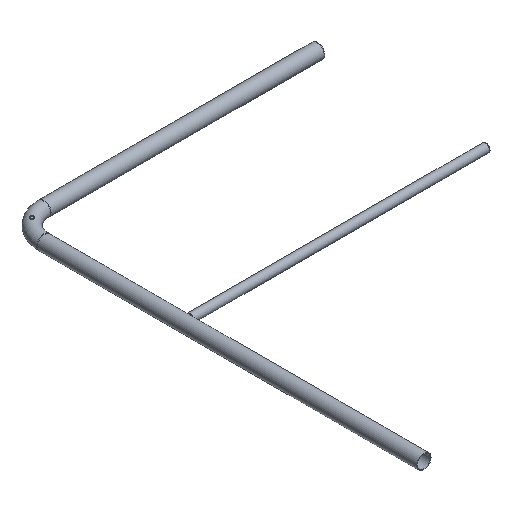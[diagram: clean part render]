
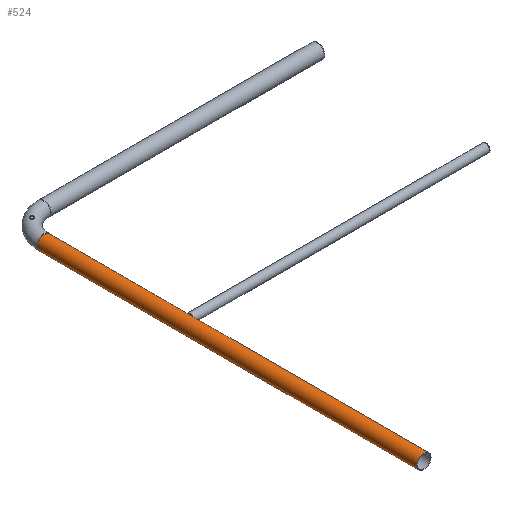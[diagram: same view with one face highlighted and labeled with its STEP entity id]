
A CAD part, isometric view. The second image highlights one B-rep face of the part: STEP entity #524.
In plain terms, the highlighted cylindrical face has radius 21.2 mm (diameter 42.4 mm), a full revolution.
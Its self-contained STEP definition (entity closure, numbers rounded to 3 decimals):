
#493=CARTESIAN_POINT('',(-21.2,1013.5,0.));
#494=VERTEX_POINT('',#493);
#495=CARTESIAN_POINT('',(0.,1013.5,0.0));
#496=DIRECTION('',(0.0,-1.0,0.0));
#497=DIRECTION('',(1.0,0.0,0.0));
#498=AXIS2_PLACEMENT_3D('',#495,#496,#497);
#499=CIRCLE('',#498,21.2);
#500=EDGE_CURVE('',#494,#494,#499,.T.);
#505=CARTESIAN_POINT('',(0.,-116.,0.0));
#506=DIRECTION('',(0.,1.0,0.0));
#507=DIRECTION('',(1.0,0.0,0.0));
#508=AXIS2_PLACEMENT_3D('',#505,#506,#507);
#509=CYLINDRICAL_SURFACE('',#508,21.2);
#510=ORIENTED_EDGE('',*,*,#500,.T.);
#511=EDGE_LOOP('',(#510));
#512=FACE_OUTER_BOUND('',#511,.T.);
#513=CARTESIAN_POINT('',(-21.2,-116.,0.));
#514=VERTEX_POINT('',#513);
#515=CARTESIAN_POINT('',(0.,-116.,0.0));
#516=DIRECTION('',(0.0,-1.0,0.0));
#517=DIRECTION('',(1.0,0.0,0.0));
#518=AXIS2_PLACEMENT_3D('',#515,#516,#517);
#519=CIRCLE('',#518,21.2);
#520=EDGE_CURVE('',#514,#514,#519,.T.);
#521=ORIENTED_EDGE('',*,*,#520,.F.);
#522=EDGE_LOOP('',(#521));
#523=FACE_BOUND('',#522,.T.);
#524=ADVANCED_FACE('',(#512,#523),#509,.T.);
